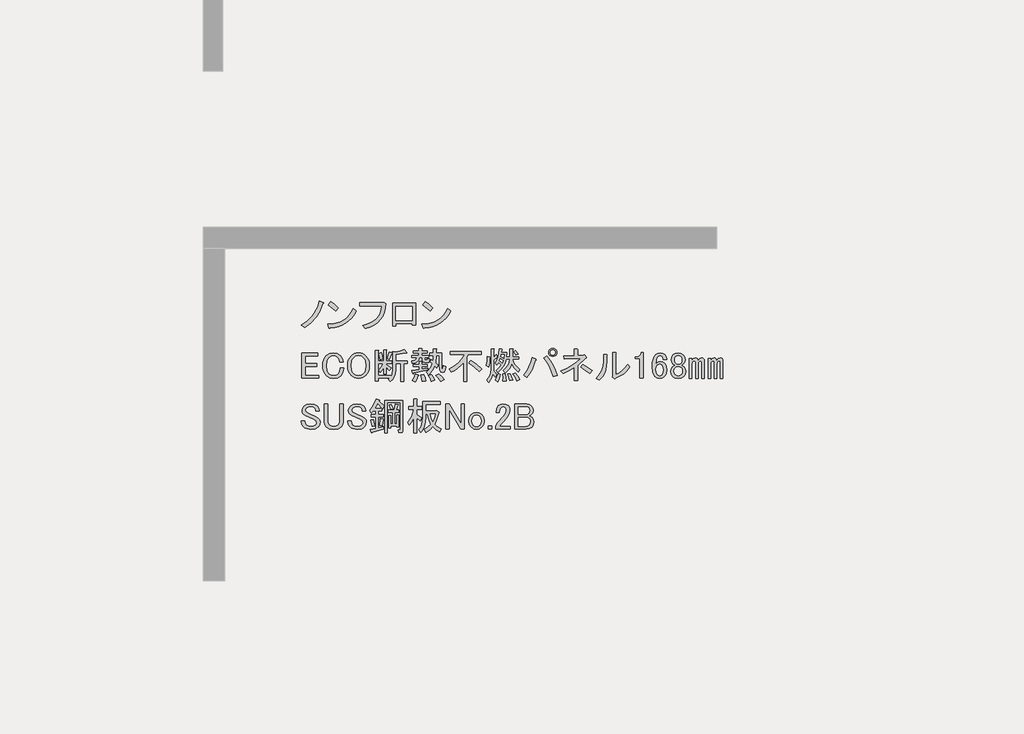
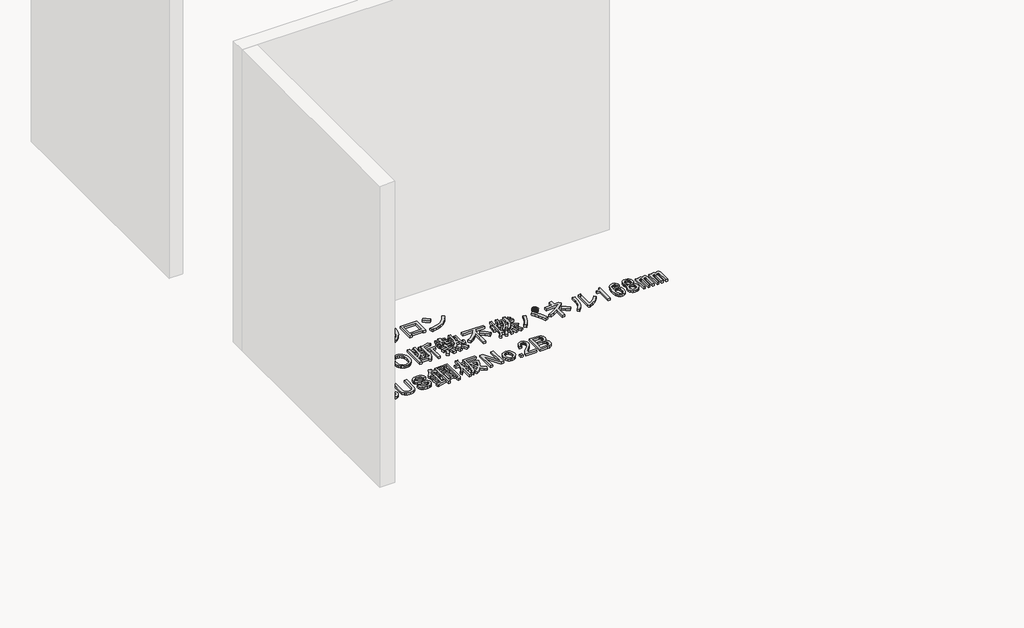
# One storey, part 52 of 117: 1 proxy.
"""IFC4 building model written with IfcOpenShell, lengths in millimetres."""

from ifc_helpers import new_model, si_unit, frame, origin, place, context, project, spatial, polyline, outline, extrude, element, save

model = new_model("IFC4")

# Units and contexts
model_context = context("Model", 3, world=origin())
ifc_project = project(units=[si_unit("LENGTHUNIT", "METRE", prefix="MILLI")], contexts=[model_context])

# Site, building, storey
site = spatial("IfcSite", under=ifc_project)
building = spatial("IfcBuilding", under=site)
storey = spatial("IfcBuildingStorey", under=building, Name="レベル 1", Elevation=500.0)

# Proxy
placement = place(None, origin())
element("IfcBuildingElementProxy", 1, Name="200㎜\u3000MS Pゴシック", ObjectType="200㎜\u3000MS Pゴシック", at=placement, inside=storey, context=model_context, shape_type="SweptSolid", body=[
    extrude(outline(polyline([(40940.1706985, -20603.5496882), (40914.5952502, -20663.3215225), (40886.146156, -20709.2998566), (40844.4782907, -20754.7034615), (40795.3389462, -20792.060858), (40767.7519457, -20770.2211493), (40815.4544673, -20739.7605029), (40855.1107805, -20701.2536481), (40872.4963381, -20677.3305462), (40887.8703435, -20649.2406577), (40901.2327969, -20616.9839827), (40912.5836981, -20580.5605212), (40943.6190736, -20594.3540214), (40946.7800841, -20598.9518548), (40940.1706985, -20603.5496882)])), frame((0.0, 0.0, 500.0), z_axis=(0.0, 0.0, 1.0), x_axis=(1.0, 0.0, 0.0)), (0.0, 0.0, 1.0), 25.0),
    extrude(outline(polyline([(41039.8977052, -20658.7236891), (40981.2753292, -20611.5958967), (41000.8161212, -20587.4572713), (41028.1157571, -20607.2854279), (41061.7374138, -20636.8839804), (41039.8977052, -20658.7236891)])), frame((0.0, 0.0, 500.0), z_axis=(0.0, 0.0, 1.0), x_axis=(1.0, 0.0, 0.0)), (0.0, 0.0, 1.0), 25.0),
    extrude(outline(polyline([(41201.9713328, -20658.7236891), (41185.447869, -20688.465924), (41166.3381239, -20714.4724192), (41144.6420975, -20736.7431748), (41120.3597898, -20755.2781907), (41093.4912008, -20770.077467), (41064.0363306, -20781.1410036), (41031.995179, -20788.4688006), (40997.3677461, -20792.060858), (40991.6204544, -20800.1070664), (40985.8731626, -20794.3597747), (40976.6774958, -20764.4738575), (41012.5082679, -20761.7977748), (41045.2857912, -20755.4937141), (41075.0100658, -20745.5616756), (41101.6810916, -20732.0016591), (41125.2988687, -20714.8136646), (41145.863397, -20693.9976923), (41163.3746766, -20669.553742), (41177.8327074, -20641.4818138), (41201.9713328, -20658.7236891)])), frame((0.0, 0.0, 500.0), z_axis=(0.0, 0.0, 1.0), x_axis=(1.0, 0.0, 0.0)), (0.0, 0.0, 1.0), 25.0),
    extrude(outline(polyline([(41252.7314136, -20773.6695243), (41286.514713, -20763.9889298), (41316.0234641, -20751.6142922), (41341.257667, -20736.5456116), (41362.2173217, -20718.782888), (41378.902428, -20698.3261214), (41391.3129862, -20675.1753118), (41399.4489961, -20649.3304591), (41403.3104577, -20620.7915635), (41230.8917049, -20620.7915635), (41230.8917049, -20595.5034798), (41405.6093744, -20595.5034798), (41421.7017914, -20592.0551047), (41434.3458332, -20603.5496882), (41430.825617, -20640.0449909), (41422.5638851, -20673.0919185), (41409.5606375, -20702.6904711), (41391.8158742, -20728.8406486), (41369.3295952, -20751.542451), (41342.1018005, -20770.7958784), (41310.1324901, -20786.6009308), (41273.421664, -20798.9576081), (41252.7314136, -20773.6695243)])), frame((0.0, 0.0, 500.0), z_axis=(0.0, 0.0, 1.0), x_axis=(1.0, 0.0, 0.0)), (0.0, 0.0, 1.0), 25.0),
    extrude(outline(polyline([(41667.455987, -20772.520066), (41641.0184449, -20772.520066), (41641.0184449, -20759.8760241), (41513.4285679, -20759.8760241), (41513.4285679, -20778.2673577), (41486.9910258, -20778.2673577), (41486.9910258, -20598.9518548), (41667.455987, -20598.9518548), (41667.455987, -20772.520066)]), holes=[polyline([(41513.4285679, -20624.2399386), (41513.4285679, -20734.5879404), (41641.0184449, -20734.5879404), (41641.0184449, -20624.2399386), (41513.4285679, -20624.2399386)])]), frame((0.0, 0.0, 500.0), z_axis=(0.0, 0.0, 1.0), x_axis=(1.0, 0.0, 0.0)), (0.0, 0.0, 1.0), 25.0),
    extrude(outline(polyline([(41943.5099049, -20658.7236891), (41926.9864411, -20688.465924), (41907.876696, -20714.4724192), (41886.1806696, -20736.7431748), (41861.8983619, -20755.2781907), (41835.0297729, -20770.077467), (41805.5749026, -20781.1410036), (41773.5337511, -20788.4688006), (41738.9063182, -20792.060858), (41733.1590264, -20800.1070664), (41727.4117347, -20794.3597747), (41718.2160679, -20764.4738575), (41754.0468399, -20761.7977748), (41786.8243633, -20755.4937141), (41816.5486378, -20745.5616756), (41843.2196637, -20732.0016591), (41866.8374407, -20714.8136646), (41887.4019691, -20693.9976923), (41904.9132486, -20669.553742), (41919.3712795, -20641.4818138), (41943.5099049, -20658.7236891)])), frame((0.0, 0.0, 500.0), z_axis=(0.0, 0.0, 1.0), x_axis=(1.0, 0.0, 0.0)), (0.0, 0.0, 1.0), 25.0),
    extrude(outline(polyline([(41781.4362772, -20658.7236891), (41722.8139013, -20611.5958967), (41742.3546933, -20587.4572713), (41769.6543291, -20607.2854279), (41803.2759859, -20636.8839804), (41781.4362772, -20658.7236891)])), frame((0.0, 0.0, 500.0), z_axis=(0.0, 0.0, 1.0), x_axis=(1.0, 0.0, 0.0)), (0.0, 0.0, 1.0), 25.0),
    extrude(outline(polyline([(40773.4992375, -20992.0551047), (40899.9396562, -20992.0551047), (40899.9396562, -21013.8948134), (40799.9367796, -21013.8948134), (40799.9367796, -21074.816106), (40893.0429061, -21074.816106), (40893.0429061, -21096.6558147), (40799.9367796, -21096.6558147), (40799.9367796, -21166.7727742), (40905.686948, -21166.7727742), (40905.686948, -21188.6124829), (40773.4992375, -21188.6124829), (40773.4992375, -20992.0551047)])), frame((0.0, 0.0, 500.0), z_axis=(0.0, 0.0, 1.0), x_axis=(1.0, 0.0, 0.0)), (0.0, 0.0, 1.0), 25.0),
    extrude(outline(polyline([(40937.7798252, -21090.908523), (40939.5758538, -21066.985421), (40944.9639399, -21045.7922827), (40953.9440832, -21027.3291079), (40966.516284, -21011.5958967), (40991.5170031, -20995.2161152), (41022.8397432, -20989.756188), (41053.5877541, -20994.641386), (41076.8642858, -21009.29698), (41092.6693381, -21032.8608762), (41098.7039944, -21062.1720642), (41071.116994, -21062.1720642), (41066.231796, -21040.9070847), (41056.1740354, -21025.3893969), (41040.9437123, -21015.0442717), (41022.8397432, -21011.5958967), (41003.2989512, -21015.6190009), (40986.0570759, -21027.6883136), (40977.0050914, -21039.3984206), (40970.5393882, -21053.8384911), (40965.3668256, -21090.908523), (40970.5393882, -21127.9785548), (40977.0050914, -21142.4186254), (40986.0570759, -21154.1287323), (41002.7242221, -21165.3359513), (41022.8397432, -21169.0716909), (41043.242629, -21165.9106804), (41058.4729521, -21156.427649), (41070.5422648, -21136.8868571), (41074.5653691, -21110.449315), (41102.1523695, -21110.449315), (41095.8303486, -21145.2204301), (41088.7899162, -21159.3731361), (41079.1632025, -21171.3706076), (41068.3151893, -21179.9197041), (41055.3119417, -21186.0262016), (41022.8397432, -21190.9113996), (40991.5170031, -21185.4514724), (40966.516284, -21169.0716909), (40953.9440832, -21153.4103209), (40944.9639399, -21135.1626695), (40939.5758538, -21114.3287369), (40937.7798252, -21090.908523)])), frame((0.0, 0.0, 500.0), z_axis=(0.0, 0.0, 1.0), x_axis=(1.0, 0.0, 0.0)), (0.0, 0.0, 1.0), 25.0),
    extrude(outline(polyline([(41133.1417667, -21089.7590646), (41134.8659542, -21066.9135799), (41140.0385168, -21046.6543764), (41148.6594544, -21028.9814543), (41160.7287671, -21013.8948134), (41173.4446501, -21003.3341648), (41187.4536738, -20995.7908443), (41202.7558381, -20991.2648521), (41219.3511431, -20989.756188), (41235.946448, -20991.2648521), (41251.2486123, -20995.7908443), (41265.257636, -21003.3341648), (41277.973519, -21013.8948134), (41290.0428317, -21028.9814543), (41298.6637694, -21046.6543764), (41303.836332, -21066.9135799), (41305.5605195, -21089.7590646), (41303.836332, -21112.6045494), (41298.6637694, -21132.8637528), (41290.0428317, -21150.536675), (41277.973519, -21165.6233159), (41265.257636, -21176.1839645), (41251.2486123, -21183.7272849), (41235.946448, -21188.2532772), (41219.3511431, -21189.7619413), (41202.7558381, -21188.2532772), (41187.4536738, -21183.7272849), (41173.4446501, -21176.1839645), (41160.7287671, -21165.6233159), (41148.6594544, -21150.536675), (41140.0385168, -21132.8637528), (41134.8659542, -21112.6045494), (41133.1417667, -21089.7590646)]), holes=[polyline([(41219.3511431, -21011.5958967), (41198.6608927, -21015.9063655), (41180.2695591, -21028.837772), (41171.7204626, -21039.9731498), (41165.6139651, -21053.8384911), (41160.7287671, -21089.7590646), (41165.6139651, -21125.6796381), (41171.7204626, -21139.5449795), (41180.2695591, -21150.6803573), (41198.6608927, -21163.6117637), (41219.3511431, -21167.9222326), (41240.0413934, -21163.6117637), (41258.432727, -21150.6803573), (41266.9818235, -21139.5449795), (41273.088321, -21125.6796381), (41277.973519, -21089.7590646), (41273.088321, -21053.8384911), (41266.9818235, -21039.9731498), (41258.432727, -21028.837772), (41240.0413934, -21015.9063655), (41219.3511431, -21011.5958967)])]), frame((0.0, 0.0, 500.0), z_axis=(0.0, 0.0, 1.0), x_axis=(1.0, 0.0, 0.0)), (0.0, 0.0, 1.0), 25.0),
    extrude(outline(polyline([(41444.3691101, -21035.7345221), (41461.6109854, -20982.8594379), (41482.3012357, -20988.6067296), (41484.0254232, -20991.7677401), (41480.002319, -20994.3540214), (41462.7604437, -21042.6312722), (41444.3691101, -21035.7345221)])), frame((0.0, 0.0, 500.0), z_axis=(0.0, 0.0, 1.0), x_axis=(1.0, 0.0, 0.0)), (0.0, 0.0, 1.0), 25.0),
    extrude(outline(polyline([(41598.3965292, -20987.4572713), (41596.6723417, -20992.0551047), (41589.2008624, -20989.756188), (41512.1871528, -21002.4002299), (41512.1871528, -21051.826939), (41604.143821, -21051.826939), (41604.143821, -21073.6666477), (41573.1084455, -21073.6666477), (41573.1084455, -21213.9005666), (41550.1192785, -21213.9005666), (41550.1192785, -21073.6666477), (41512.1871528, -21073.6666477), (41512.1871528, -21123.0933568), (41509.6008716, -21150.8958807), (41501.8420277, -21175.6810764), (41488.9106212, -21197.448944), (41470.8066522, -21216.1994833), (41453.5647769, -21196.6586914), (41463.9099021, -21187.4630245), (41374.2521506, -21187.4630245), (41374.2521506, -21209.3027332), (41351.2629836, -21209.3027332), (41351.2629836, -20970.215396), (41373.1026922, -20970.215396), (41377.9878902, -20972.5143127), (41374.2521506, -20977.1121461), (41374.2521506, -21052.9763974), (41416.7821096, -21052.9763974), (41416.7821096, -20965.6175626), (41435.1734433, -20965.6175626), (41440.0586413, -20967.9164793), (41436.3229016, -20972.5143127), (41436.3229016, -21052.9763974), (41480.002319, -21052.9763974), (41480.002319, -21071.367731), (41436.3229016, -21071.367731), (41436.3229016, -21080.5633978), (41476.5539439, -21107.0009399), (41462.7604437, -21128.8406486), (41436.3229016, -21102.4031065), (41436.3229016, -21155.2781907), (41416.7821096, -21155.2781907), (41416.7821096, -21107.0009399), (41403.5633386, -21126.8290965), (41389.1951092, -21142.6341488), (41376.5510673, -21124.2428152), (41398.390776, -21100.1041898), (41415.6326513, -21071.367731), (41374.2521506, -21071.367731), (41374.2521506, -21165.6233159), (41471.9561105, -21165.6233159), (41471.9561105, -21179.4168161), (41484.887517, -21155.2781907), (41489.1979858, -21121.9438985), (41489.1979858, -20977.1121461), (41511.0376945, -20982.8594379), (41547.2456326, -20975.3879586), (41577.7062789, -20962.1691875), (41598.3965292, -20987.4572713)])), frame((0.0, 0.0, 500.0), z_axis=(0.0, 0.0, 1.0), x_axis=(1.0, 0.0, 0.0)), (0.0, 0.0, 1.0), 25.0),
    extrude(outline(polyline([(41390.3445675, -21043.7807305), (41377.7005257, -20993.2045631), (41397.2413176, -20986.3078129), (41405.0001615, -21010.4464383), (41409.8853595, -21036.8839804), (41390.3445675, -21043.7807305)])), frame((0.0, 0.0, 500.0), z_axis=(0.0, 0.0, 1.0), x_axis=(1.0, 0.0, 0.0)), (0.0, 0.0, 1.0), 25.0),
    extrude(outline(polyline([(41734.0326148, -21159.8760241), (41744.0903754, -21187.17566), (41748.9755734, -21209.3027332), (41720.2391146, -21215.050025), (41717.6528333, -21193.4976809), (41709.8939894, -21163.3243992), (41734.0326148, -21159.8760241)])), frame((0.0, 0.0, 500.0), z_axis=(0.0, 0.0, 1.0), x_axis=(1.0, 0.0, 0.0)), (0.0, 0.0, 1.0), 25.0),
    extrude(outline(polyline([(41790.356074, -21212.7511083), (41782.022501, -21188.0377537), (41768.5163654, -21166.7727742), (41789.2066157, -21158.7265657), (41806.1611264, -21180.2789098), (41817.9430745, -21203.5554415), (41790.356074, -21212.7511083)])), frame((0.0, 0.0, 500.0), z_axis=(0.0, 0.0, 1.0), x_axis=(1.0, 0.0, 0.0)), (0.0, 0.0, 1.0), 25.0),
    extrude(outline(polyline([(41689.2037391, -21164.4738575), (41692.6521141, -21169.3590555), (41686.9048224, -21172.520066), (41677.1344264, -21198.0955143), (41666.214572, -21217.3489417), (41643.225405, -21205.8543582), (41655.8694469, -21182.290462), (41666.214572, -21155.2781907), (41689.2037391, -21164.4738575)])), frame((0.0, 0.0, 500.0), z_axis=(0.0, 0.0, 1.0), x_axis=(1.0, 0.0, 0.0)), (0.0, 0.0, 1.0), 25.0),
    extrude(outline(polyline([(41721.3885729, -21027.6883136), (41696.1004892, -21027.6883136), (41691.5026558, -21045.1457123), (41681.1575306, -21058.4363245), (41665.0651137, -21067.5601502), (41643.225405, -21072.5171893), (41638.6275716, -21052.9763974), (41663.9156553, -21044.3554597), (41671.3871346, -21037.0276627), (41675.4102388, -21027.6883136), (41639.7770299, -21027.6883136), (41639.7770299, -21009.29698), (41693.8015725, -21009.29698), (41693.8015725, -20992.0551047), (41650.1221551, -20992.0551047), (41650.1221551, -20973.6637711), (41693.8015725, -20973.6637711), (41693.8015725, -20955.2724374), (41715.6412812, -20955.2724374), (41720.5264792, -20957.5713541), (41716.7907395, -20962.1691875), (41716.7907395, -20973.6637711), (41759.3206985, -20973.6637711), (41759.3206985, -20992.0551047), (41716.7907395, -20992.0551047), (41716.7907395, -21009.29698), (41769.6658237, -21009.29698), (41769.6658237, -21027.6883136), (41740.9293649, -21027.6883136), (41740.9293649, -21040.3323555), (41742.3661878, -21045.5049181), (41746.6766567, -21047.2291056), (41757.0217818, -21047.2291056), (41760.7575215, -21044.0680951), (41760.4701569, -21034.5850637), (41780.0109489, -21036.8839804), (41777.137303, -21058.4363245), (41771.8210581, -21063.8244106), (41763.9185319, -21065.6204392), (41739.7799066, -21065.6204392), (41725.9864063, -21060.7352412), (41721.3885729, -21046.0796472), (41721.3885729, -21027.6883136)])), frame((0.0, 0.0, 500.0), z_axis=(0.0, 0.0, 1.0), x_axis=(1.0, 0.0, 0.0)), (0.0, 0.0, 1.0), 25.0),
    extrude(outline(polyline([(41852.4268251, -21010.4464383), (41830.5871164, -21010.4464383), (41825.989283, -21067.9193559), (41845.5300749, -21086.3106896), (41835.1849498, -21108.1503983), (41819.0925328, -21092.0579813), (41799.8391054, -21129.7027424), (41769.6658237, -21162.1749408), (41752.4239484, -21141.4846905), (41767.5105893, -21129.5590601), (41780.585678, -21114.4724192), (41791.6492147, -21096.2247679), (41800.7011992, -21074.816106), (41783.4593239, -21059.8731475), (41791.5055324, -21042.6312722), (41805.2990326, -21052.9763974), (41807.5979493, -21010.4464383), (41780.0109489, -21010.4464383), (41780.0109489, -20992.0551047), (41807.5979493, -20992.0551047), (41807.5979493, -20957.5713541), (41829.437658, -20957.5713541), (41834.322856, -20959.8702708), (41830.5871164, -20964.4681043), (41830.5871164, -20992.0551047), (41871.967617, -20992.0551047), (41871.967617, -21088.6096063), (41875.4159921, -21112.7482317), (41878.6488437, -21114.7597838), (41881.4506484, -21111.5987733), (41885.7611173, -21089.7590646), (41905.3019092, -21096.6558147), (41900.775917, -21123.4525626), (41892.945232, -21139.4731384), (41881.8098542, -21144.7175421), (41867.3697836, -21139.1857738), (41860.8322393, -21131.8579768), (41856.1625647, -21120.219711), (41852.4268251, -21084.0117729), (41852.4268251, -21010.4464383)])), frame((0.0, 0.0, 500.0), z_axis=(0.0, 0.0, 1.0), x_axis=(1.0, 0.0, 0.0)), (0.0, 0.0, 1.0), 25.0),
    extrude(outline(polyline([(41651.2716134, -21149.5308989), (41649.2600613, -21154.4160969), (41645.5243217, -21152.979274), (41639.7770299, -21128.8406486), (41694.9510308, -21120.7944401), (41694.9510308, -21097.8052731), (41651.2716134, -21097.8052731), (41651.2716134, -21079.4139395), (41694.9510308, -21079.4139395), (41694.9510308, -21056.4247724), (41713.3423645, -21056.4247724), (41718.2275625, -21058.7236891), (41714.4918228, -21063.3215225), (41714.4918228, -21079.4139395), (41759.3206985, -21079.4139395), (41759.3206985, -21097.8052731), (41714.4918228, -21097.8052731), (41714.4918228, -21117.3460651), (41765.0679903, -21108.1503983), (41765.0679903, -21124.2428152), (41651.2716134, -21149.5308989)])), frame((0.0, 0.0, 500.0), z_axis=(0.0, 0.0, 1.0), x_axis=(1.0, 0.0, 0.0)), (0.0, 0.0, 1.0), 25.0),
    extrude(outline(polyline([(41848.97845, -21154.1287323), (41873.6918046, -21175.3937119), (41892.6578674, -21200.1070664), (41866.2203253, -21215.050025), (41846.9668979, -21185.4514724), (41828.2881997, -21165.6233159), (41848.97845, -21154.1287323)])), frame((0.0, 0.0, 500.0), z_axis=(0.0, 0.0, 1.0), x_axis=(1.0, 0.0, 0.0)), (0.0, 0.0, 1.0), 25.0),
    extrude(outline(polyline([(42167.3784135, -21138.0363154), (42128.2968295, -21099.8168252), (42086.9163289, -21070.2182726), (42103.0087458, -21049.5280223), (42146.6881632, -21077.6897519), (42188.0686638, -21116.1966067), (42167.3784135, -21138.0363154)])), frame((0.0, 0.0, 500.0), z_axis=(0.0, 0.0, 1.0), x_axis=(1.0, 0.0, 0.0)), (0.0, 0.0, 1.0), 25.0),
    extrude(outline(polyline([(41940.9351182, -20977.1121461), (42182.3213721, -20977.1121461), (42182.3213721, -21002.4002299), (42082.3184955, -21002.4002299), (42071.9733703, -21026.5388553), (42071.9733703, -21212.7511083), (42045.5358282, -21212.7511083), (42045.5358282, -21065.6204392), (42024.7018956, -21088.8969709), (42001.2816816, -21109.2998566), (41975.2751864, -21126.8290965), (41946.6824099, -21141.4846905), (41930.589993, -21115.0471484), (41970.174465, -21094.6442626), (42003.8679629, -21069.0688143), (42031.6704868, -21038.3208034), (42053.5820367, -21002.4002299), (41940.9351182, -21002.4002299), (41940.9351182, -20977.1121461)])), frame((0.0, 0.0, 500.0), z_axis=(0.0, 0.0, 1.0), x_axis=(1.0, 0.0, 0.0)), (0.0, 0.0, 1.0), 25.0),
    extrude(outline(polyline([(42354.7401249, -21211.6016499), (42355.3148541, -21184.5893787), (42352.4412082, -21156.427649), (42371.9820002, -21155.2781907), (42378.3040211, -21181.4283682), (42378.8787503, -21209.3027332), (42354.7401249, -21211.6016499)])), frame((0.0, 0.0, 500.0), z_axis=(0.0, 0.0, 1.0), x_axis=(1.0, 0.0, 0.0)), (0.0, 0.0, 1.0), 25.0),
    extrude(outline(polyline([(42335.1993329, -21159.8760241), (42326.5783953, -21190.3366704), (42312.2101659, -21217.3489417), (42292.6693739, -21204.7048998), (42306.7502387, -21179.9915453), (42316.8079993, -21151.8298156), (42335.1993329, -21159.8760241)])), frame((0.0, 0.0, 500.0), z_axis=(0.0, 0.0, 1.0), x_axis=(1.0, 0.0, 0.0)), (0.0, 0.0, 1.0), 25.0),
    extrude(outline(polyline([(42250.1394149, -21021.9410219), (42254.7372483, -21024.2399386), (42250.1394149, -21028.837772), (42248.9899565, -21068.4940851), (42243.2426647, -21102.4031065), (42224.8513311, -21089.7590646), (42230.5986229, -21055.2753141), (42231.7480812, -21018.4926468), (42250.1394149, -21021.9410219)])), frame((0.0, 0.0, 500.0), z_axis=(0.0, 0.0, 1.0), x_axis=(1.0, 0.0, 0.0)), (0.0, 0.0, 1.0), 25.0),
    extrude(outline(polyline([(42301.8650407, -21003.5496882), (42311.0607075, -21020.7915635), (42312.4975305, -21026.8262199), (42307.6123325, -21026.5388553), (42281.1747904, -21047.2291056), (42281.1747904, -21131.1395653), (42294.9682906, -21143.4962426), (42306.4628741, -21159.8760241), (42293.8188322, -21180.5662744), (42275.4274986, -21155.2781907), (42263.6455505, -21191.1987642), (42242.0932064, -21220.7973168), (42227.1502478, -21202.4059831), (42242.2368887, -21183.6554438), (42253.0130607, -21163.0370346), (42259.478764, -21140.5507556), (42261.6339984, -21116.1966067), (42261.6339984, -20958.7208125), (42280.025332, -20958.7208125), (42284.91053, -20961.0197292), (42281.1747904, -20965.6175626), (42281.1747904, -21024.2399386), (42301.8650407, -21003.5496882)])), frame((0.0, 0.0, 500.0), z_axis=(0.0, 0.0, 1.0), x_axis=(1.0, 0.0, 0.0)), (0.0, 0.0, 1.0), 25.0),
    extrude(outline(polyline([(42452.4440848, -20972.5143127), (42474.2837935, -20996.6529381), (42457.0419182, -21008.1475216), (42450.4325327, -20996.6529381), (42437.5011262, -20982.8594379), (42452.4440848, -20972.5143127)])), frame((0.0, 0.0, 500.0), z_axis=(0.0, 0.0, 1.0), x_axis=(1.0, 0.0, 0.0)), (0.0, 0.0, 1.0), 25.0),
    extrude(outline(polyline([(42462.78921, -21209.3027332), (42449.5704389, -21181.1410036), (42432.9032928, -21156.427649), (42451.2946265, -21148.3814406), (42470.2606893, -21171.3706076), (42485.778377, -21198.9576081), (42462.78921, -21209.3027332)])), frame((0.0, 0.0, 500.0), z_axis=(0.0, 0.0, 1.0), x_axis=(1.0, 0.0, 0.0)), (0.0, 0.0, 1.0), 25.0),
    extrude(outline(polyline([(42413.3625008, -21154.1287323), (42431.7538345, -21203.5554415), (42407.6152091, -21208.1532749), (42393.8217089, -21157.5771074), (42413.3625008, -21154.1287323)])), frame((0.0, 0.0, 500.0), z_axis=(0.0, 0.0, 1.0), x_axis=(1.0, 0.0, 0.0)), (0.0, 0.0, 1.0), 25.0),
    extrude(outline(polyline([(42474.2837935, -21139.1857738), (42443.5357826, -21108.7251274), (42422.5581677, -21074.816106), (42414.1527535, -21096.9431793), (42402.7300111, -21116.1966067), (42388.2899405, -21132.5763882), (42370.8325418, -21146.0825239), (42357.0390416, -21127.6911902), (42377.8729742, -21108.7969686), (42393.2469797, -21087.7475125), (42403.161058, -21064.542822), (42407.6152091, -21039.1828971), (42378.8787503, -21039.1828971), (42370.904383, -21069.7872258), (42357.3264062, -21097.2305439), (42338.1448199, -21121.5128516), (42313.3596242, -21142.6341488), (42300.7155823, -21126.5417319), (42326.5783953, -21104.9893878), (42342.096083, -21084.0117729), (42320.2563743, -21064.4709809), (42306.4628741, -21085.1612312), (42292.6693739, -21070.2182726), (42305.0978923, -21051.1803687), (42314.7964472, -21026.2514907), (42321.7650384, -20995.4316386), (42326.0036661, -20958.7208125), (42346.6939164, -20961.0197292), (42350.1422915, -20963.6060105), (42344.3949997, -20966.767021), (42342.096083, -20985.1583546), (42385.7755004, -20985.1583546), (42382.3271253, -21020.7915635), (42407.6152091, -21020.7915635), (42407.6152091, -20958.7208125), (42429.4549178, -20958.7208125), (42434.3401158, -20961.0197292), (42430.6043761, -20965.6175626), (42430.6043761, -21020.7915635), (42480.0310853, -21020.7915635), (42480.0310853, -21039.1828971), (42430.6043761, -21039.1828971), (42437.1419205, -21060.9507647), (42448.7083452, -21081.4254916), (42465.3036501, -21100.6070778), (42486.9278354, -21118.4955234), (42474.2837935, -21139.1857738)]), holes=[polyline([(42350.1422915, -21069.0688143), (42357.0390416, -21049.5280223), (42331.7509579, -21033.4356054), (42326.0036661, -21050.6774807), (42350.1422915, -21069.0688143)]), polyline([(42339.7971663, -21003.5496882), (42336.3487913, -21019.6421052), (42361.636875, -21033.4356054), (42366.2347084, -21003.5496882), (42339.7971663, -21003.5496882)])]), frame((0.0, 0.0, 500.0), z_axis=(0.0, 0.0, 1.0), x_axis=(1.0, 0.0, 0.0)), (0.0, 0.0, 1.0), 25.0),
    extrude(outline(polyline([(42699.5776305, -21012.745355), (42726.230696, -21049.4561812), (42748.7169751, -21087.1727833), (42767.0364675, -21125.8951616), (42781.1891735, -21165.6233159), (42750.153798, -21175.968441), (42734.7079514, -21132.8637528), (42717.1068704, -21094.356898), (42697.3505549, -21060.4478766), (42675.4390051, -21031.1366887), (42699.5776305, -21012.745355)])), frame((0.0, 0.0, 500.0), z_axis=(0.0, 0.0, 1.0), x_axis=(1.0, 0.0, 0.0)), (0.0, 0.0, 1.0), 25.0),
    extrude(outline(polyline([(42612.2187958, -21039.1828971), (42616.2419, -21044.6428243), (42609.919879, -21049.5280223), (42597.9942486, -21084.9457078), (42582.9076078, -21118.782888), (42564.6599564, -21151.039563), (42543.2512946, -21181.7157328), (42516.8137525, -21164.4738575), (42540.018443, -21133.0074351), (42559.056347, -21099.5294606), (42573.9274644, -21064.039934), (42584.6317953, -21026.5388553), (42612.2187958, -21039.1828971)])), frame((0.0, 0.0, 500.0), z_axis=(0.0, 0.0, 1.0), x_axis=(1.0, 0.0, 0.0)), (0.0, 0.0, 1.0), 25.0),
    extrude(outline(polyline([(42745.5559646, -21018.4926468), (42732.9119227, -21016.1937301), (42722.5667975, -21009.29698), (42715.6700474, -20998.9518548), (42713.3711307, -20986.3078129), (42715.6700474, -20973.6637711), (42722.5667975, -20963.3186459), (42732.9119227, -20956.4218958), (42745.5559646, -20954.1229791), (42758.2000065, -20956.4218958), (42768.5451316, -20963.3186459), (42775.4418817, -20973.6637711), (42777.7407984, -20986.3078129), (42775.4418817, -20998.9518548), (42768.5451316, -21009.29698), (42758.2000065, -21016.1937301), (42745.5559646, -21018.4926468)]), holes=[polyline([(42745.5559646, -21006.9980633), (42753.8895376, -21005.5612403), (42760.4989232, -21001.2507715), (42764.809392, -20994.641386), (42766.2462149, -20986.3078129), (42764.809392, -20977.9742399), (42760.4989232, -20971.3648544), (42753.8895376, -20967.0543855), (42745.5559646, -20965.6175626), (42737.2223915, -20967.0543855), (42730.613006, -20971.3648544), (42726.3025372, -20977.9742399), (42724.8657143, -20986.3078129), (42726.3025372, -20994.641386), (42730.613006, -21001.2507715), (42737.2223915, -21005.5612403), (42745.5559646, -21006.9980633)])]), frame((0.0, 0.0, 500.0), z_axis=(0.0, 0.0, 1.0), x_axis=(1.0, 0.0, 0.0)), (0.0, 0.0, 1.0), 25.0),
    extrude(outline(polyline([(42989.2411352, -21008.1475216), (42996.1378853, -21005.8486049), (43008.7819272, -21023.0904802), (43009.9313856, -21029.1251366), (43004.1840938, -21031.1366887), (42940.9638844, -21087.4601479), (42940.9638844, -21208.1532749), (42914.5263423, -21208.1532749), (42914.5263423, -21105.8514816), (42874.2953, -21129.9901069), (42829.4664243, -21151.8298156), (42809.9256323, -21131.1395653), (42855.4729195, -21111.6706145), (42896.7097379, -21088.8969709), (42933.6360874, -21062.8186345), (42966.2519682, -21033.4356054), (42836.3631744, -21039.1828971), (42832.9147993, -21013.8948134), (42914.5263423, -21011.5958967), (42914.5263423, -20959.8702708), (42937.5155094, -20959.8702708), (42943.5501657, -20963.3186459), (42940.9638844, -20969.0659377), (42940.9638844, -21010.4464383), (42989.2411352, -21008.1475216)])), frame((0.0, 0.0, 500.0), z_axis=(0.0, 0.0, 1.0), x_axis=(1.0, 0.0, 0.0)), (0.0, 0.0, 1.0), 25.0),
    extrude(outline(polyline([(43035.2194693, -21151.8298156), (42998.1494375, -21122.5186277), (42965.1025098, -21101.2536481), (42982.3443851, -21079.4139395), (43021.1386045, -21102.6904711), (43054.7602613, -21128.8406486), (43035.2194693, -21151.8298156)])), frame((0.0, 0.0, 500.0), z_axis=(0.0, 0.0, 1.0), x_axis=(1.0, 0.0, 0.0)), (0.0, 0.0, 1.0), 25.0),
    extrude(outline(polyline([(43242.2139293, -21158.7265657), (43266.9991251, -21146.5135708), (43290.7785447, -21129.4153778), (43313.5521883, -21107.4319868), (43335.3200559, -21080.5633978), (43351.4124728, -21102.4031065), (43328.1359412, -21130.2056304), (43301.9857636, -21153.8413678), (43272.9619403, -21173.3103186), (43241.064471, -21188.6124829), (43231.8688042, -21193.2103163), (43213.4774705, -21179.4168161), (43215.7763872, -21173.6695243), (43215.7763872, -20988.6067296), (43239.9150126, -20988.6067296), (43245.6623044, -20992.0551047), (43242.2139293, -20997.8023965), (43242.2139293, -21158.7265657)])), frame((0.0, 0.0, 500.0), z_axis=(0.0, 0.0, 1.0), x_axis=(1.0, 0.0, 0.0)), (0.0, 0.0, 1.0), 25.0),
    extrude(outline(polyline([(43088.1865102, -21189.7619413), (43113.3309116, -21160.5225944), (43131.2911984, -21127.9785548), (43142.0673704, -21092.1298225), (43145.6594278, -21052.9763974), (43145.6594278, -21001.2507715), (43169.7980532, -21001.2507715), (43175.5453449, -21004.6991466), (43172.0969699, -21010.4464383), (43172.0969699, -21051.826939), (43168.2893891, -21097.5897496), (43156.8666467, -21138.32368), (43137.8287427, -21174.0287301), (43111.1756772, -21204.7048998), (43088.1865102, -21189.7619413)])), frame((0.0, 0.0, 500.0), z_axis=(0.0, 0.0, 1.0), x_axis=(1.0, 0.0, 0.0)), (0.0, 0.0, 1.0), 25.0),
    extrude(outline(polyline([(43430.7250991, -21011.5958967), (43438.7713075, -21000.6760423), (43442.2196826, -20988.6067296), (43456.0131828, -20988.6067296), (43456.0131828, -21187.4630245), (43429.5756407, -21187.4630245), (43429.5756407, -21034.5850637), (43395.0918902, -21034.5850637), (43395.0918902, -21020.7915635), (43405.4370153, -21020.7915635), (43419.8052447, -21018.4926468), (43430.7250991, -21011.5958967)])), frame((0.0, 0.0, 500.0), z_axis=(0.0, 0.0, 1.0), x_axis=(1.0, 0.0, 0.0)), (0.0, 0.0, 1.0), 25.0),
    extrude(outline(polyline([(43527.2796006, -21094.356898), (43529.0037882, -21064.9738689), (43534.1763508, -21040.0449909), (43542.7972884, -21019.570264), (43554.8666011, -21003.5496882), (43570.3842888, -20993.2045631), (43589.3503517, -20989.756188), (43609.1785082, -20993.2045631), (43624.9835606, -21003.5496882), (43636.1907795, -21020.5041989), (43639.9265191, -21041.4818138), (43613.488977, -21041.4818138), (43611.7647895, -21027.6883136), (43606.5922269, -21018.4926468), (43598.8333831, -21013.3200842), (43589.3503517, -21011.5958967), (43579.8673203, -21013.3200842), (43572.1084764, -21018.4926468), (43564.0622679, -21029.4125011), (43558.3149762, -21043.7807305), (43553.7171427, -21082.8623145), (43565.2117263, -21067.9193559), (43576.7063098, -21060.1605121), (43590.49981, -21057.5742308), (43609.4658728, -21061.0226058), (43624.9835606, -21071.367731), (43637.914967, -21092.9200751), (43642.2254359, -21123.0933568), (43637.6276024, -21154.4160969), (43623.8341022, -21177.1178994), (43607.4543207, -21187.4630245), (43585.9019766, -21190.9113996), (43566.07382, -21186.6009308), (43547.969851, -21173.6695243), (43538.9178665, -21160.9536413), (43532.4521632, -21143.4962426), (43527.2796006, -21094.356898)]), holes=[polyline([(43588.2008933, -21078.2644811), (43577.5684035, -21080.2760332), (43568.6601013, -21086.3106896), (43559.1770699, -21101.2536481), (43556.0160594, -21120.7944401), (43559.4644345, -21144.9330655), (43569.8095597, -21162.1749408), (43578.1431327, -21168.2095972), (43587.051435, -21170.2211493), (43596.5344664, -21168.4969617), (43604.2933102, -21163.3243992), (43612.0521541, -21148.094076), (43614.6384354, -21123.0933568), (43612.0521541, -21100.678919), (43604.2933102, -21086.3106896), (43596.2471018, -21080.2760332), (43588.2008933, -21078.2644811)])]), frame((0.0, 0.0, 500.0), z_axis=(0.0, 0.0, 1.0), x_axis=(1.0, 0.0, 0.0)), (0.0, 0.0, 1.0), 25.0),
    extrude(outline(polyline([(43677.8586448, -21044.9301889), (43681.881749, -21021.9410219), (43693.9510617, -21003.5496882), (43710.3308432, -20993.2045631), (43731.8831873, -20989.756188), (43753.722896, -20993.4919276), (43770.9647713, -21004.6991466), (43782.1719902, -21022.2283864), (43785.9077299, -21044.9301889), (43782.4593548, -21063.0341579), (43772.1142296, -21078.2644811), (43758.3207294, -21086.3106896), (43758.3207294, -21088.6096063), (43768.37849, -21092.6327105), (43777.8615214, -21100.1041898), (43788.2066466, -21116.1966067), (43791.6550216, -21136.8868571), (43787.6319174, -21158.1518366), (43775.5626047, -21175.968441), (43757.1712711, -21187.17566), (43731.8831873, -21190.9113996), (43706.5951036, -21187.17566), (43688.2037699, -21175.968441), (43676.1344572, -21158.1518366), (43672.111353, -21136.8868571), (43675.5597281, -21116.1966067), (43685.9048532, -21100.1041898), (43695.3878846, -21092.6327105), (43705.4456452, -21088.6096063), (43705.4456452, -21086.3106896), (43690.5026866, -21075.9655644), (43681.0196552, -21061.8846996), (43677.8586448, -21044.9301889)]), holes=[polyline([(43731.8831873, -21010.4464383), (43721.2506976, -21012.4579905), (43712.3423953, -21018.4926468), (43705.4456452, -21029.6998657), (43703.1467285, -21044.9301889), (43705.4456452, -21059.2984183), (43712.3423953, -21070.2182726), (43720.963333, -21076.252929), (43730.733729, -21078.2644811), (43742.8030417, -21076.5402936), (43751.4239793, -21071.367731), (43758.3207294, -21060.1605121), (43760.6196461, -21044.9301889), (43758.3207294, -21029.6998657), (43751.4239793, -21018.4926468), (43742.5156771, -21012.4579905), (43731.8831873, -21010.4464383)]), polyline([(43731.8831873, -21097.8052731), (43718.3770517, -21100.1041898), (43707.7445619, -21107.0009399), (43700.8478118, -21118.2081588), (43698.5488951, -21133.438482), (43701.1351764, -21148.9561698), (43708.8940203, -21161.0254825), (43719.2391454, -21167.9222326), (43731.8831873, -21170.2211493), (43744.5272292, -21167.9222326), (43754.8723544, -21161.0254825), (43762.6311982, -21148.9561698), (43765.2174795, -21133.438482), (43762.6311982, -21117.9207943), (43754.8723544, -21105.8514816), (43745.1019584, -21099.8168252), (43731.8831873, -21097.8052731)])]), frame((0.0, 0.0, 500.0), z_axis=(0.0, 0.0, 1.0), x_axis=(1.0, 0.0, 0.0)), (0.0, 0.0, 1.0), 25.0),
    extrude(outline(polyline([(43839.9322724, -21189.7619413), (43820.3914804, -21189.7619413), (43820.3914804, -21032.286147), (43839.9322724, -21032.286147), (43839.9322724, -21049.5280223), (43852.0015851, -21034.0103346), (43865.2203561, -21028.837772), (43874.416023, -21030.2745949), (43881.3127731, -21034.5850637), (43888.2095232, -21048.378564), (43901.1409296, -21033.72297), (43914.6470653, -21028.837772), (43922.9806383, -21030.2745949), (43929.5900239, -21034.5850637), (43934.7625864, -21043.2060014), (43936.486774, -21055.2753141), (43936.486774, -21189.7619413), (43916.945982, -21189.7619413), (43916.945982, -21065.6204392), (43914.3597007, -21056.1374078), (43906.6008568, -21052.9763974), (43896.2557317, -21057.5742308), (43890.2210753, -21066.1951684), (43888.2095232, -21075.9655644), (43888.2095232, -21189.7619413), (43868.6687312, -21189.7619413), (43868.6687312, -21065.6204392), (43866.0824499, -21056.1374078), (43858.323606, -21052.9763974), (43847.9784809, -21057.5742308), (43841.9438245, -21066.1951684), (43839.9322724, -21075.9655644), (43839.9322724, -21189.7619413)])), frame((0.0, 0.0, 500.0), z_axis=(0.0, 0.0, 1.0), x_axis=(1.0, 0.0, 0.0)), (0.0, 0.0, 1.0), 25.0),
    extrude(outline(polyline([(44061.7777343, -21028.837772), (44070.1113074, -21030.2745949), (44076.7206929, -21034.5850637), (44081.8932555, -21043.2060014), (44083.617443, -21055.2753141), (44083.617443, -21189.7619413), (44064.0766511, -21189.7619413), (44064.0766511, -21065.6204392), (44061.4903698, -21056.1374078), (44053.7315259, -21052.9763974), (44043.3864007, -21057.5742308), (44037.3517444, -21066.1951684), (44035.3401922, -21075.9655644), (44035.3401922, -21189.7619413), (44015.7994003, -21189.7619413), (44015.7994003, -21065.6204392), (44013.213119, -21056.1374078), (44005.4542751, -21052.9763974), (43995.1091499, -21057.5742308), (43989.0744936, -21066.1951684), (43987.0629415, -21075.9655644), (43987.0629415, -21189.7619413), (43967.5221495, -21189.7619413), (43967.5221495, -21032.286147), (43987.0629415, -21032.286147), (43987.0629415, -21049.5280223), (43999.1322542, -21034.0103346), (44012.3510252, -21028.837772), (44021.546692, -21030.2745949), (44028.4434421, -21034.5850637), (44035.3401922, -21048.378564), (44048.2715987, -21033.72297), (44061.7777343, -21028.837772)])), frame((0.0, 0.0, 500.0), z_axis=(0.0, 0.0, 1.0), x_axis=(1.0, 0.0, 0.0)), (0.0, 0.0, 1.0), 25.0),
    extrude(outline(polyline([(40775.7981542, -21443.7807305), (40779.8212584, -21423.3778448), (40791.8905711, -21405.8486049), (40812.2934569, -21393.7792922), (40841.3172803, -21389.756188), (40872.6400204, -21394.3540214), (40895.3418228, -21408.1475216), (40907.4111355, -21425.6767615), (40911.4342397, -21446.0796472), (40884.9966976, -21446.0796472), (40882.6977809, -21433.4356054), (40875.8010308, -21423.0904802), (40862.5822598, -21415.3316363), (40843.616197, -21412.745355), (40823.2133112, -21415.0442717), (40810.2819048, -21421.9410219), (40804.2472484, -21430.5619595), (40802.2356963, -21440.3323555), (40806.8335297, -21455.2753141), (40827.52378, -21466.7698976), (40887.2956143, -21493.2074397), (40904.5374896, -21504.7020232), (40914.020521, -21518.4955234), (40917.1815315, -21534.5879404), (40913.1584273, -21555.8529199), (40901.0891146, -21573.6695243), (40891.1031951, -21581.2128448), (40878.3873121, -21586.6009308), (40844.7656553, -21590.9113996), (40811.1439985, -21585.738837), (40797.5660217, -21579.2731338), (40786.1432794, -21570.2211493), (40774.9360604, -21551.8298156), (40771.2003208, -21526.5417319), (40797.6378629, -21526.5417319), (40799.9367796, -21544.3583363), (40806.8335297, -21556.427649), (40822.9259466, -21565.9106804), (40845.9151137, -21569.0716909), (40866.8927286, -21566.198045), (40881.5483226, -21557.5771074), (40888.4450727, -21548.3814406), (40890.7439894, -21539.1857738), (40889.0198019, -21529.7027424), (40883.8472393, -21521.9438985), (40865.4559057, -21510.449315), (40835.5699885, -21496.6558147), (40802.2356963, -21481.7128562), (40786.1432794, -21471.367731), (40778.3844355, -21459.2984183), (40775.7981542, -21443.7807305)])), frame((0.0, 0.0, 500.0), z_axis=(0.0, 0.0, 1.0), x_axis=(1.0, 0.0, 0.0)), (0.0, 0.0, 1.0), 25.0),
    extrude(outline(polyline([(40951.2054987, -21392.0551047), (40977.6430408, -21392.0551047), (40977.6430408, -21529.9901069), (40980.2293221, -21544.6457009), (40987.988166, -21556.427649), (41003.5058537, -21565.9106804), (41024.7708332, -21569.0716909), (41046.0358128, -21565.9106804), (41061.5535005, -21556.427649), (41069.3123444, -21544.6457009), (41071.8986257, -21529.9901069), (41071.8986257, -21392.0551047), (41098.3361678, -21392.0551047), (41098.3361678, -21531.1395653), (41094.3130635, -21554.1287323), (41082.2437508, -21572.520066), (41071.7549434, -21580.5662744), (41058.6798546, -21586.3135662), (41024.7708332, -21590.9113996), (40990.8618119, -21586.3135662), (40977.7867231, -21580.5662744), (40967.2979156, -21572.520066), (40955.2286029, -21554.1287323), (40951.2054987, -21531.1395653), (40951.2054987, -21392.0551047)])), frame((0.0, 0.0, 500.0), z_axis=(0.0, 0.0, 1.0), x_axis=(1.0, 0.0, 0.0)), (0.0, 0.0, 1.0), 25.0),
    extrude(outline(polyline([(41140.6822135, -21443.7807305), (41144.7053177, -21423.3778448), (41156.7746304, -21405.8486049), (41177.1775161, -21393.7792922), (41206.2013395, -21389.756188), (41237.5240796, -21394.3540214), (41260.2258821, -21408.1475216), (41272.2951948, -21425.6767615), (41276.318299, -21446.0796472), (41249.8807569, -21446.0796472), (41247.5818402, -21433.4356054), (41240.6850901, -21423.0904802), (41227.466319, -21415.3316363), (41208.5002562, -21412.745355), (41188.0973705, -21415.0442717), (41175.165964, -21421.9410219), (41169.1313077, -21430.5619595), (41167.1197556, -21440.3323555), (41171.717589, -21455.2753141), (41192.4078393, -21466.7698976), (41252.1796736, -21493.2074397), (41269.4215489, -21504.7020232), (41278.9045803, -21518.4955234), (41282.0655908, -21534.5879404), (41278.0424865, -21555.8529199), (41265.9731738, -21573.6695243), (41255.9872544, -21581.2128448), (41243.2713714, -21586.6009308), (41209.6497146, -21590.9113996), (41176.0280578, -21585.738837), (41162.450081, -21579.2731338), (41151.0273386, -21570.2211493), (41139.8201197, -21551.8298156), (41136.0843801, -21526.5417319), (41162.5219222, -21526.5417319), (41164.8208389, -21544.3583363), (41171.717589, -21556.427649), (41187.8100059, -21565.9106804), (41210.7991729, -21569.0716909), (41231.7767879, -21566.198045), (41246.4323819, -21557.5771074), (41253.329132, -21548.3814406), (41255.6280487, -21539.1857738), (41253.9038611, -21529.7027424), (41248.7312986, -21521.9438985), (41230.3399649, -21510.449315), (41200.4540478, -21496.6558147), (41167.1197556, -21481.7128562), (41151.0273386, -21471.367731), (41143.2684948, -21459.2984183), (41140.6822135, -21443.7807305)])), frame((0.0, 0.0, 500.0), z_axis=(0.0, 0.0, 1.0), x_axis=(1.0, 0.0, 0.0)), (0.0, 0.0, 1.0), 25.0),
    extrude(outline(polyline([(41410.3451429, -21431.1366887), (41368.9646422, -21387.4572713), (41347.1249335, -21426.5388553), (41402.2989344, -21426.5388553), (41402.2989344, -21444.9301889), (41375.8613923, -21444.9301889), (41375.8613923, -21473.6666477), (41413.7935179, -21473.6666477), (41413.7935179, -21492.0579813), (41375.8613923, -21492.0579813), (41375.8613923, -21579.4168161), (41414.9429763, -21569.0716909), (41417.241893, -21588.6124829), (41325.2852248, -21613.9005666), (41322.9863081, -21619.6478584), (41318.3884747, -21616.1994833), (41311.4917246, -21593.2103163), (41356.3206003, -21584.0146495), (41356.3206003, -21492.0579813), (41318.3884747, -21492.0579813), (41318.3884747, -21473.6666477), (41356.3206003, -21473.6666477), (41356.3206003, -21444.9301889), (41334.4808916, -21444.9301889), (41319.537933, -21463.3215225), (41306.8938912, -21442.6312722), (41335.0556208, -21404.9865112), (41359.7689754, -21354.1229791), (41381.6086841, -21359.8702708), (41385.0570591, -21363.6060105), (41379.3097674, -21365.6175626), (41378.160309, -21369.0659377), (41422.9891847, -21406.9980633), (41410.3451429, -21431.1366887)])), frame((0.0, 0.0, 500.0), z_axis=(0.0, 0.0, 1.0), x_axis=(1.0, 0.0, 0.0)), (0.0, 0.0, 1.0), 25.0),
    extrude(outline(polyline([(41478.1631856, -21394.3540214), (41485.3473003, -21409.5843446), (41490.8072275, -21429.9872303), (41473.5653522, -21435.7345221), (41462.0707687, -21398.9518548), (41478.1631856, -21394.3540214)])), frame((0.0, 0.0, 500.0), z_axis=(0.0, 0.0, 1.0), x_axis=(1.0, 0.0, 0.0)), (0.0, 0.0, 1.0), 25.0),
    extrude(outline(polyline([(41531.0382698, -21395.5034798), (41533.6245511, -21398.9518548), (41527.5898948, -21402.4002299), (41514.9458529, -21440.3323555), (41535.6361032, -21440.3323555), (41535.6361032, -21458.7236891), (41504.6007277, -21458.7236891), (41504.6007277, -21547.2319822), (41519.5436863, -21547.2319822), (41519.5436863, -21479.4139395), (41535.6361032, -21479.4139395), (41535.6361032, -21573.6695243), (41519.5436863, -21573.6695243), (41519.5436863, -21565.6233159), (41473.5653522, -21565.6233159), (41473.5653522, -21578.2673577), (41457.4729353, -21578.2673577), (41457.4729353, -21481.7128562), (41473.5653522, -21481.7128562), (41473.5653522, -21547.2319822), (41488.5083108, -21547.2319822), (41488.5083108, -21458.7236891), (41452.8751019, -21458.7236891), (41452.8751019, -21440.3323555), (41498.853436, -21440.3323555), (41509.1985611, -21390.9056463), (41531.0382698, -21395.5034798)])), frame((0.0, 0.0, 500.0), z_axis=(0.0, 0.0, 1.0), x_axis=(1.0, 0.0, 0.0)), (0.0, 0.0, 1.0), 25.0),
    extrude(outline(polyline([(41425.2881014, -21362.1691875), (41565.5220204, -21362.1691875), (41565.5220204, -21602.4059831), (41561.7862807, -21613.6132021), (41550.5790618, -21617.3489417), (41534.4866449, -21617.3489417), (41529.8888115, -21595.509233), (41541.383395, -21595.509233), (41544.83177, -21594.3597747), (41545.9812284, -21590.9113996), (41545.9812284, -21380.5605212), (41444.8288934, -21380.5605212), (41444.8288934, -21619.6478584), (41425.2881014, -21619.6478584), (41425.2881014, -21362.1691875)])), frame((0.0, 0.0, 500.0), z_axis=(0.0, 0.0, 1.0), x_axis=(1.0, 0.0, 0.0)), (0.0, 0.0, 1.0), 25.0),
    extrude(outline(polyline([(41413.7935179, -21510.449315), (41416.3797992, -21513.6103254), (41412.6440596, -21516.1966067), (41404.5978511, -21563.3243992), (41386.2065175, -21561.0254825), (41391.9538092, -21507.0009399), (41413.7935179, -21510.449315)])), frame((0.0, 0.0, 500.0), z_axis=(0.0, 0.0, 1.0), x_axis=(1.0, 0.0, 0.0)), (0.0, 0.0, 1.0), 25.0),
    extrude(outline(polyline([(41336.7798083, -21511.5987733), (41348.2743918, -21563.3243992), (41327.5841415, -21569.0716909), (41316.089558, -21517.3460651), (41336.7798083, -21511.5987733)])), frame((0.0, 0.0, 500.0), z_axis=(0.0, 0.0, 1.0), x_axis=(1.0, 0.0, 0.0)), (0.0, 0.0, 1.0), 25.0),
    extrude(outline(polyline([(41736.7913148, -21590.9113996), (41765.5277736, -21573.6695243), (41787.3674823, -21551.8298156), (41769.5508779, -21509.8745858), (41759.7804819, -21469.0688143), (41747.13644, -21469.0688143), (41747.13644, -21493.2074397), (41744.693841, -21534.9471461), (41737.366044, -21569.3590555), (41725.153049, -21596.4431679), (41708.054856, -21616.1994833), (41694.2613558, -21593.2103163), (41707.3364446, -21575.8247587), (41716.6757937, -21553.5540032), (41722.2794031, -21526.3980496), (41724.147273, -21494.356898), (41724.147273, -21373.6637711), (41860.9328169, -21373.6637711), (41860.9328169, -21395.5034798), (41747.13644, -21395.5034798), (41747.13644, -21447.2291056), (41826.4490663, -21447.2291056), (41832.1963581, -21441.4818138), (41851.73715, -21455.2753141), (41853.173973, -21459.0110537), (41848.288775, -21463.3215225), (41835.9320977, -21509.8745858), (41817.2533995, -21550.6803573), (41836.2194623, -21569.0716909), (41867.829567, -21587.4630245), (41858.6339002, -21611.6016499), (41830.7595351, -21595.509233), (41802.3104409, -21570.2211493), (41777.8844509, -21594.6471392), (41745.9869817, -21615.050025), (41736.7913148, -21590.9113996)]), holes=[polyline([(41781.6201906, -21469.0688143), (41789.666399, -21502.1157419), (41802.3104409, -21529.9901069), (41814.9544828, -21503.8399294), (41823.0006912, -21469.0688143), (41781.6201906, -21469.0688143)])]), frame((0.0, 0.0, 500.0), z_axis=(0.0, 0.0, 1.0), x_axis=(1.0, 0.0, 0.0)), (0.0, 0.0, 1.0), 25.0),
    extrude(outline(polyline([(41654.0303135, -21619.6478584), (41654.0303135, -21500.1041898), (41636.213709, -21534.3005758), (41617.2476462, -21556.427649), (41605.7530627, -21535.7373987), (41622.994938, -21513.0355963), (41636.7884382, -21488.6096063), (41647.1335634, -21462.4594288), (41654.0303135, -21434.5850637), (41612.6498128, -21434.5850637), (41612.6498128, -21412.745355), (41654.0303135, -21412.745355), (41654.0303135, -21352.9735207), (41675.8700222, -21352.9735207), (41680.7552202, -21355.2724374), (41677.0194805, -21359.8702708), (41677.0194805, -21412.745355), (41714.9516061, -21412.745355), (41714.9516061, -21434.5850637), (41677.0194805, -21434.5850637), (41677.0194805, -21474.816106), (41714.9516061, -21501.2536481), (41704.606481, -21524.2428152), (41677.0194805, -21501.2536481), (41677.0194805, -21619.6478584), (41654.0303135, -21619.6478584)])), frame((0.0, 0.0, 500.0), z_axis=(0.0, 0.0, 1.0), x_axis=(1.0, 0.0, 0.0)), (0.0, 0.0, 1.0), 25.0),
    extrude(outline(polyline([(41904.6122342, -21392.0551047), (41933.348693, -21392.0551047), (42025.3053612, -21547.2319822), (42025.3053612, -21392.0551047), (42051.7429033, -21392.0551047), (42051.7429033, -21588.6124829), (42023.0064445, -21588.6124829), (41931.0497763, -21433.4356054), (41931.0497763, -21588.6124829), (41904.6122342, -21588.6124829), (41904.6122342, -21392.0551047)])), frame((0.0, 0.0, 500.0), z_axis=(0.0, 0.0, 1.0), x_axis=(1.0, 0.0, 0.0)), (0.0, 0.0, 1.0), 25.0),
    extrude(outline(polyline([(42084.8932822, -21524.2428152), (42089.7784802, -21496.9431793), (42104.4340742, -21474.816106), (42123.6875015, -21461.8846996), (42146.9640332, -21457.5742308), (42170.2405648, -21461.8846996), (42189.4939922, -21474.816106), (42204.1495862, -21496.9431793), (42209.0347842, -21524.2428152), (42204.1495862, -21551.542451), (42189.4939922, -21573.6695243), (42170.2405648, -21586.6009308), (42146.9640332, -21590.9113996), (42123.6875015, -21586.6009308), (42104.4340742, -21573.6695243), (42089.7784802, -21551.542451), (42084.8932822, -21524.2428152)]), holes=[polyline([(42146.9640332, -21478.2644811), (42134.3199913, -21480.5633978), (42123.9748661, -21487.4601479), (42113.629741, -21503.5525648), (42110.1813659, -21524.2428152), (42113.3423764, -21544.6457009), (42122.8254078, -21559.8760241), (42134.0326267, -21567.634868), (42146.9640332, -21570.2211493), (42159.8954396, -21567.634868), (42171.1026586, -21559.8760241), (42180.58569, -21544.6457009), (42183.7467004, -21524.2428152), (42180.2983254, -21503.5525648), (42169.9532002, -21487.4601479), (42159.6080751, -21480.5633978), (42146.9640332, -21478.2644811)])]), frame((0.0, 0.0, 500.0), z_axis=(0.0, 0.0, 1.0), x_axis=(1.0, 0.0, 0.0)), (0.0, 0.0, 1.0), 25.0),
    extrude(outline(polyline([(42239.564398, -21563.3243992), (42266.0019401, -21563.3243992), (42266.0019401, -21588.6124829), (42239.564398, -21588.6124829), (42239.564398, -21563.3243992)])), frame((0.0, 0.0, 500.0), z_axis=(0.0, 0.0, 1.0), x_axis=(1.0, 0.0, 0.0)), (0.0, 0.0, 1.0), 25.0),
    extrude(outline(polyline([(42300.7155823, -21458.7236891), (42305.3134158, -21427.400949), (42319.106916, -21404.6991466), (42335.4866975, -21393.4919276), (42354.7401249, -21389.756188), (42377.4419273, -21393.4919276), (42394.9711672, -21404.6991466), (42406.1783861, -21421.3662927), (42409.9141258, -21441.4818138), (42405.603657, -21467.3446268), (42392.6722505, -21489.7590646), (42359.3379583, -21527.6911902), (42340.9466247, -21548.3814406), (42327.1531244, -21566.7727742), (42413.3625008, -21566.7727742), (42413.3625008, -21588.6124829), (42296.1177489, -21588.6124829), (42296.1177489, -21569.0716909), (42302.1524053, -21555.2781907), (42315.6585409, -21536.8868571), (42362.7863334, -21485.1612312), (42377.4419273, -21463.8962517), (42382.3271253, -21441.4818138), (42380.0282086, -21428.837772), (42373.1314585, -21418.4926468), (42365.3726147, -21413.3200842), (42355.8895832, -21411.5958967), (42347.2686456, -21413.3200842), (42339.7971663, -21418.4926468), (42330.3141349, -21434.8724283), (42327.1531244, -21458.7236891), (42300.7155823, -21458.7236891)])), frame((0.0, 0.0, 500.0), z_axis=(0.0, 0.0, 1.0), x_axis=(1.0, 0.0, 0.0)), (0.0, 0.0, 1.0), 25.0),
    extrude(outline(polyline([(42447.8462514, -21392.0551047), (42539.8029196, -21392.0551047), (42560.7805345, -21395.7908443), (42577.7350452, -21406.9980633), (42588.0801704, -21423.0904802), (42591.5285454, -21443.7807305), (42588.3675349, -21460.7352412), (42578.8845035, -21474.816106), (42561.6426283, -21485.1612312), (42583.482337, -21497.8052731), (42593.8274621, -21513.3229608), (42597.2758372, -21532.2890237), (42592.9653684, -21555.5655553), (42580.0339619, -21574.8189827), (42562.7920866, -21585.1641078), (42538.6534612, -21588.6124829), (42447.8462514, -21588.6124829), (42447.8462514, -21392.0551047)]), holes=[polyline([(42474.2837935, -21413.8948134), (42474.2837935, -21474.816106), (42536.3545445, -21474.816106), (42546.9870343, -21472.8045539), (42555.8953365, -21466.7698976), (42562.7920866, -21456.1374078), (42565.0910033, -21442.6312722), (42562.7920866, -21430.8493241), (42555.8953365, -21420.7915635), (42548.1364926, -21415.6190009), (42538.6534612, -21413.8948134), (42474.2837935, -21413.8948134)]), polyline([(42474.2837935, -21496.6558147), (42474.2837935, -21566.7727742), (42532.9061695, -21566.7727742), (42548.1364926, -21564.4738575), (42559.3437116, -21557.5771074), (42567.1025554, -21546.0825239), (42569.6888367, -21532.2890237), (42567.38992, -21517.9207943), (42560.4931699, -21507.0009399), (42548.4238572, -21499.242096), (42532.9061695, -21496.6558147), (42474.2837935, -21496.6558147)])]), frame((0.0, 0.0, 500.0), z_axis=(0.0, 0.0, 1.0), x_axis=(1.0, 0.0, 0.0)), (0.0, 0.0, 1.0), 25.0),
])

save(model, "model.ifc")
